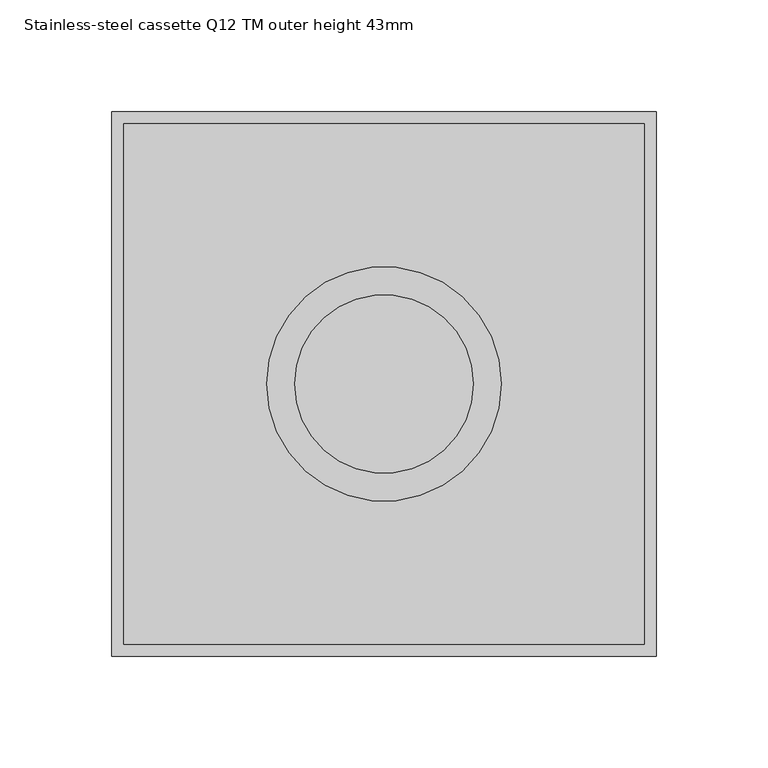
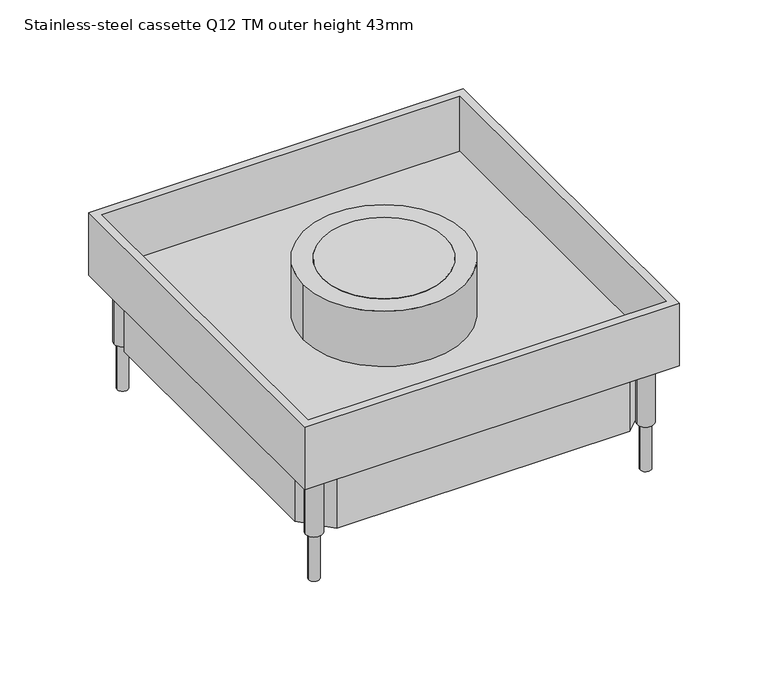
"""IFC4 building model written with IfcOpenShell, lengths in millimetres: proxy geometry, Electrical_Installation_Hager_VE-EE_EKQ-Height-adjustable-stainless-steel-cassette-with-tube-mounting-set-square-for-damp-cleaned-floors : Stainless-steel cassette Q12 TM outer height 43mm."""

from ifc_helpers import new_model, si_unit, point, frame, frame_2d, origin, origin_with_axes, origin_2d, place, context, project, spatial, polyline, circle_curve, trimmed, segment, composite_curve, outline, extrude, source, transform, mapped, element, save


def stainless_steel_cassette_q12_tm_outer_height_43mm_7061454b(model_context):
    return source(origin(), model_context, "Body", "SweptSolid", [
        extrude(outline(composite_curve([segment(trimmed(circle_curve(origin_2d(), 40.0), [point((-40.0, 0.0))], [point((40.0, 0.0))], False, "CARTESIAN"), True, "CONTINUOUS"), segment(trimmed(circle_curve(origin_2d(), 40.0), [point((40.0, 0.0))], [point((-40.0, 0.0))], False, "CARTESIAN"), True, "CONTINUOUS")], self_intersect=False)), origin_with_axes(), (0.0, 0.0, 1.0), 2.0),
        extrude(outline(composite_curve([segment(trimmed(circle_curve(origin_2d(), 52.5), [point((-52.5, 0.0))], [point((52.5, 0.0))], False, "CARTESIAN"), True, "CONTINUOUS"), segment(trimmed(circle_curve(origin_2d(), 52.5), [point((52.5, 0.0))], [point((-52.5, 0.0))], False, "CARTESIAN"), True, "CONTINUOUS")], self_intersect=False), holes=[composite_curve([segment(trimmed(circle_curve(origin_2d(), 40.0), [point((40.0, 0.0))], [point((-40.0, 0.0))], True, "CARTESIAN"), True, "CONTINUOUS"), segment(trimmed(circle_curve(origin_2d(), 40.0), [point((-40.0, 0.0))], [point((40.0, 0.0))], True, "CARTESIAN"), True, "CONTINUOUS")], self_intersect=False)]), frame((0.0, 0.0, -36.0), z_axis=(0.0, 0.0, 1.0), x_axis=(1.0, 0.0, 0.0)), (0.0, 0.0, 1.0), 38.0),
        extrude(outline(composite_curve([segment(trimmed(circle_curve(frame_2d((-108.0, 108.0)), 3.5), [point((-111.5, 108.0))], [point((-104.5, 108.0))], False, "CARTESIAN"), True, "CONTINUOUS"), segment(trimmed(circle_curve(frame_2d((-108.0, 108.0)), 3.5), [point((-104.5, 108.0))], [point((-111.5, 108.0))], False, "CARTESIAN"), True, "CONTINUOUS")], self_intersect=False)), frame((0.0, 0.0, -115.0), z_axis=(0.0, 0.0, 1.0), x_axis=(1.0, 0.0, 0.0)), (0.0, 0.0, 1.0), 32.0011554),
        extrude(outline(composite_curve([segment(trimmed(circle_curve(frame_2d((108.0, 108.0)), 3.5), [point((104.5, 108.0))], [point((111.5, 108.0))], False, "CARTESIAN"), True, "CONTINUOUS"), segment(trimmed(circle_curve(frame_2d((108.0, 108.0)), 3.5), [point((111.5, 108.0))], [point((104.5, 108.0))], False, "CARTESIAN"), True, "CONTINUOUS")], self_intersect=False)), frame((0.0, 0.0, -115.0), z_axis=(0.0, 0.0, 1.0), x_axis=(1.0, 0.0, 0.0)), (0.0, 0.0, 1.0), 32.0011554),
        extrude(outline(composite_curve([segment(trimmed(circle_curve(frame_2d((108.0, -108.0)), 3.523354), [point((104.476646, -108.0))], [point((111.523354, -108.0))], False, "CARTESIAN"), True, "CONTINUOUS"), segment(trimmed(circle_curve(frame_2d((108.0, -108.0)), 3.523354), [point((111.523354, -108.0))], [point((104.476646, -108.0))], False, "CARTESIAN"), True, "CONTINUOUS")], self_intersect=False)), frame((0.0, 0.0, -115.0), z_axis=(0.0, 0.0, 1.0), x_axis=(1.0, 0.0, 0.0)), (0.0, 0.0, 1.0), 32.0011554),
        extrude(outline(composite_curve([segment(trimmed(circle_curve(frame_2d((-108.0, -108.0)), 3.5), [point((-111.5, -108.0))], [point((-104.5, -108.0))], False, "CARTESIAN"), True, "CONTINUOUS"), segment(trimmed(circle_curve(frame_2d((-108.0, -108.0)), 3.5), [point((-104.5, -108.0))], [point((-111.5, -108.0))], False, "CARTESIAN"), True, "CONTINUOUS")], self_intersect=False)), frame((0.0, 0.0, -115.0), z_axis=(0.0, 0.0, 1.0), x_axis=(1.0, 0.0, 0.0)), (0.0, 0.0, 1.0), 32.0011554),
        extrude(outline(polyline([(4.7, 113.0), (95.3639966, 113.0), (113.0, 96.0470649), (113.0, -95.1394213), (94.7984665, -113.0), (-95.867755, -113.0), (-113.0, -95.1801256), (-113.0, 97.543544), (-95.6272863, 113.0), (4.7, 113.0)]), holes=[polyline([(-110.0, 96.3642535), (-110.0, -94.134929), (-94.4180331, -110.0), (93.4123304, -110.0), (110.0, -94.0355815), (110.0, 94.9312235), (93.9906502, 110.0), (4.7, 110.0), (-94.3203352, 110.0), (-110.0, 96.3642535)])]), frame((0.0, 0.0, -82.0), z_axis=(0.0, 0.0, 1.0), x_axis=(1.0, 0.0, 0.0)), (0.0, 0.0, 1.0), 41.0),
        extrude(outline(polyline([(116.5, 116.5), (116.5, -116.5), (-116.5, -116.5), (-116.5, 116.5), (116.5, 116.5)]), holes=[composite_curve([segment(trimmed(circle_curve(origin_2d(), 40.0), [point((-40.0, 0.0))], [point((40.0, 0.0))], True, "CARTESIAN"), True, "CONTINUOUS"), segment(trimmed(circle_curve(origin_2d(), 40.0), [point((40.0, 0.0))], [point((-40.0, 0.0))], True, "CARTESIAN"), True, "CONTINUOUS")], self_intersect=False)]), frame((0.0, 0.0, -41.0), z_axis=(0.0, 0.0, 1.0), x_axis=(1.0, 0.0, 0.0)), (0.0, 0.0, 1.0), 5.0),
        extrude(outline(composite_curve([segment(trimmed(circle_curve(frame_2d((-108.0, 108.0)), 5.5), [point((-113.5, 108.0))], [point((-102.5, 108.0))], False, "CARTESIAN"), True, "CONTINUOUS"), segment(trimmed(circle_curve(frame_2d((-108.0, 108.0)), 5.5), [point((-102.5, 108.0))], [point((-113.5, 108.0))], False, "CARTESIAN"), True, "CONTINUOUS")], self_intersect=False)), frame((0.0, 0.0, -82.9988446), z_axis=(0.0, 0.0, 1.0), x_axis=(1.0, 0.0, 0.0)), (0.0, 0.0, 1.0), 41.9988446),
        extrude(outline(composite_curve([segment(trimmed(circle_curve(frame_2d((108.0, 108.0)), 5.5), [point((102.5, 108.0))], [point((113.5, 108.0))], False, "CARTESIAN"), True, "CONTINUOUS"), segment(trimmed(circle_curve(frame_2d((108.0, 108.0)), 5.5), [point((113.5, 108.0))], [point((102.5, 108.0))], False, "CARTESIAN"), True, "CONTINUOUS")], self_intersect=False)), frame((0.0, 0.0, -82.9988446), z_axis=(0.0, 0.0, 1.0), x_axis=(1.0, 0.0, 0.0)), (0.0, 0.0, 1.0), 41.9988446),
        extrude(outline(composite_curve([segment(trimmed(circle_curve(frame_2d((-108.0, -108.0)), 5.5), [point((-113.5, -108.0))], [point((-102.5, -108.0))], False, "CARTESIAN"), True, "CONTINUOUS"), segment(trimmed(circle_curve(frame_2d((-108.0, -108.0)), 5.5), [point((-102.5, -108.0))], [point((-113.5, -108.0))], False, "CARTESIAN"), True, "CONTINUOUS")], self_intersect=False)), frame((0.0, 0.0, -82.9988446), z_axis=(0.0, 0.0, 1.0), x_axis=(1.0, 0.0, 0.0)), (0.0, 0.0, 1.0), 41.9988446),
        extrude(outline(composite_curve([segment(trimmed(circle_curve(frame_2d((108.0, -108.0)), 5.5), [point((102.5, -108.0))], [point((113.5, -108.0))], False, "CARTESIAN"), True, "CONTINUOUS"), segment(trimmed(circle_curve(frame_2d((108.0, -108.0)), 5.5), [point((113.5, -108.0))], [point((102.5, -108.0))], False, "CARTESIAN"), True, "CONTINUOUS")], self_intersect=False)), frame((0.0, 0.0, -82.9988446), z_axis=(0.0, 0.0, 1.0), x_axis=(1.0, 0.0, 0.0)), (0.0, 0.0, 1.0), 41.9988446),
        extrude(outline(polyline([(122.0, 122.0), (122.0, -122.0), (-122.0, -122.0), (-122.0, 122.0), (122.0, 122.0)]), holes=[polyline([(116.5, 116.5), (-116.5, 116.5), (-116.5, -116.5), (116.5, -116.5), (116.5, 116.5)])]), frame((0.0, 0.0, -41.0), z_axis=(0.0, 0.0, 1.0), x_axis=(1.0, 0.0, 0.0)), (0.0, 0.0, 1.0), 43.0),
    ])


if __name__ == "__main__":
    model = new_model("IFC4")
    model_context = context("Model", 3, world=origin())
    ifc_project = project(units=[si_unit("LENGTHUNIT", "METRE", prefix="MILLI")], contexts=[model_context])
    site = spatial("IfcSite", under=ifc_project)
    building = spatial("IfcBuilding", under=site)
    placement = place(None, origin())
    stainless_steel_cassette_q12_tm_outer_height_43mm_shape = stainless_steel_cassette_q12_tm_outer_height_43mm_7061454b(model_context)
    element("IfcBuildingElementProxy", 1, Name="Electrical_Installation_Hager_VE-EE_EKQ-Height-adjustable-stainless-steel-cassette-with-tube-mounting-set-square-for-damp-cleaned-floors : Stainless-steel cassette Q12 TM outer height 43mm", ObjectType="Electrical_Installation_Hager_VE-EE_EKQ-Height-adjustable-stainless-steel-cassette-with-tube-mounting-set-square-for-damp-cleaned-floors : Stainless-steel cassette Q12 TM outer height 43mm", at=placement, inside=building, context=model_context, shape_type="MappedRepresentation", body=[
        mapped(stainless_steel_cassette_q12_tm_outer_height_43mm_shape, transform((0.0, 0.0, 0.0), x_axis=(1.0, 0.0, 0.0), y_axis=(0.0, 1.0, 0.0), z_axis=(0.0, 0.0, 1.0))),
    ])
    save(model, "model.ifc")
